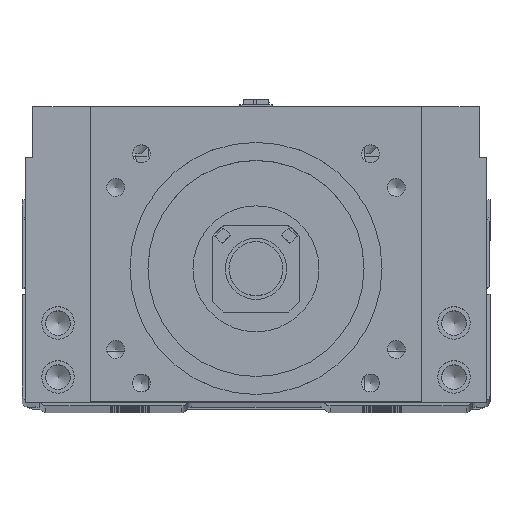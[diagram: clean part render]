
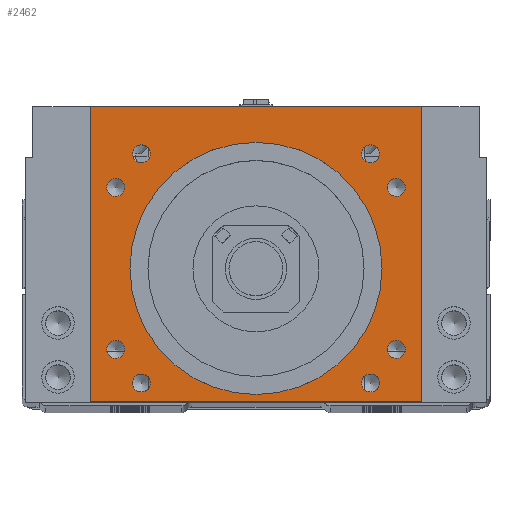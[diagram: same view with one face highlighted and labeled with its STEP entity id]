
A CAD part, top view. The second image highlights one B-rep face of the part: STEP entity #2462.
In plain terms, the highlighted planar face has unit normal (0, 0, 1).
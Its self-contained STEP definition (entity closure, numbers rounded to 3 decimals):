
#2462=ADVANCED_FACE('',(#6563,#6564,#6565,#6566,#6567,#6568,#6569,#6570,
#6571,#6572),#3351,.T.);
#3351=PLANE('',#17319);
#4151=LINE('',#24383,#5433);
#4156=LINE('',#24397,#5438);
#4161=LINE('',#24405,#5443);
#4166=LINE('',#24414,#5448);
#5433=VECTOR('',#19653,1.);
#5438=VECTOR('',#19664,1.);
#5443=VECTOR('',#19675,1.);
#5448=VECTOR('',#19682,1.);
#6563=FACE_BOUND('',#7588,.T.);
#6564=FACE_BOUND('',#7589,.T.);
#6565=FACE_BOUND('',#7590,.T.);
#6566=FACE_BOUND('',#7591,.T.);
#6567=FACE_BOUND('',#7592,.T.);
#6568=FACE_BOUND('',#7593,.T.);
#6569=FACE_BOUND('',#7594,.T.);
#6570=FACE_BOUND('',#7595,.T.);
#6571=FACE_BOUND('',#7596,.T.);
#6572=FACE_BOUND('',#7597,.T.);
#7588=EDGE_LOOP('',(#9810,#9811,#9812,#9813));
#7589=EDGE_LOOP('',(#9814));
#7590=EDGE_LOOP('',(#9815));
#7591=EDGE_LOOP('',(#9816));
#7592=EDGE_LOOP('',(#9817));
#7593=EDGE_LOOP('',(#9818));
#7594=EDGE_LOOP('',(#9819));
#7595=EDGE_LOOP('',(#9820));
#7596=EDGE_LOOP('',(#9821));
#7597=EDGE_LOOP('',(#9822));
#9810=ORIENTED_EDGE('',*,*,#14868,.T.);
#9811=ORIENTED_EDGE('',*,*,#14856,.T.);
#9812=ORIENTED_EDGE('',*,*,#14863,.T.);
#9813=ORIENTED_EDGE('',*,*,#14873,.T.);
#9814=ORIENTED_EDGE('',*,*,#14881,.F.);
#9815=ORIENTED_EDGE('',*,*,#14882,.T.);
#9816=ORIENTED_EDGE('',*,*,#14883,.T.);
#9817=ORIENTED_EDGE('',*,*,#14884,.F.);
#9818=ORIENTED_EDGE('',*,*,#14880,.F.);
#9819=ORIENTED_EDGE('',*,*,#14885,.T.);
#9820=ORIENTED_EDGE('',*,*,#14886,.T.);
#9821=ORIENTED_EDGE('',*,*,#14887,.T.);
#9822=ORIENTED_EDGE('',*,*,#14888,.T.);
#13158=VERTEX_POINT('',#24382);
#13159=VERTEX_POINT('',#24384);
#13163=VERTEX_POINT('',#24395);
#13165=VERTEX_POINT('',#24406);
#13171=VERTEX_POINT('',#24430);
#13172=VERTEX_POINT('',#24433);
#13173=VERTEX_POINT('',#24435);
#13174=VERTEX_POINT('',#24437);
#13175=VERTEX_POINT('',#24439);
#13176=VERTEX_POINT('',#24441);
#13177=VERTEX_POINT('',#24443);
#13178=VERTEX_POINT('',#24445);
#13179=VERTEX_POINT('',#24447);
#14856=EDGE_CURVE('',#13159,#13158,#4151,.T.);
#14863=EDGE_CURVE('',#13158,#13163,#4156,.T.);
#14868=EDGE_CURVE('',#13165,#13159,#4161,.T.);
#14873=EDGE_CURVE('',#13163,#13165,#4166,.T.);
#14880=EDGE_CURVE('',#13171,#13171,#16458,.T.);
#14881=EDGE_CURVE('',#13172,#13172,#16459,.T.);
#14882=EDGE_CURVE('',#13173,#13173,#16460,.T.);
#14883=EDGE_CURVE('',#13174,#13174,#16461,.T.);
#14884=EDGE_CURVE('',#13175,#13175,#16462,.T.);
#14885=EDGE_CURVE('',#13176,#13176,#16463,.T.);
#14886=EDGE_CURVE('',#13177,#13177,#16464,.T.);
#14887=EDGE_CURVE('',#13178,#13178,#16465,.T.);
#14888=EDGE_CURVE('',#13179,#13179,#16466,.T.);
#16458=CIRCLE('',#17309,35.015);
#16459=CIRCLE('',#17311,2.5);
#16460=CIRCLE('',#17312,2.5);
#16461=CIRCLE('',#17313,2.5);
#16462=CIRCLE('',#17314,2.5);
#16463=CIRCLE('',#17315,2.5);
#16464=CIRCLE('',#17316,2.5);
#16465=CIRCLE('',#17317,2.5);
#16466=CIRCLE('',#17318,2.5);
#17309=AXIS2_PLACEMENT_3D('',#24429,#19701,#19702);
#17311=AXIS2_PLACEMENT_3D('',#24432,#19705,#19706);
#17312=AXIS2_PLACEMENT_3D('',#24434,#19707,#19708);
#17313=AXIS2_PLACEMENT_3D('',#24436,#19709,#19710);
#17314=AXIS2_PLACEMENT_3D('',#24438,#19711,#19712);
#17315=AXIS2_PLACEMENT_3D('',#24440,#19713,#19714);
#17316=AXIS2_PLACEMENT_3D('',#24442,#19715,#19716);
#17317=AXIS2_PLACEMENT_3D('',#24444,#19717,#19718);
#17318=AXIS2_PLACEMENT_3D('',#24446,#19719,#19720);
#17319=AXIS2_PLACEMENT_3D('',#24448,#19721,#19722);
#19653=DIRECTION('',(-1.,0.,0.));
#19664=DIRECTION('',(0.,-1.,0.));
#19675=DIRECTION('',(0.,1.,0.));
#19682=DIRECTION('',(1.,0.,0.));
#19701=DIRECTION('',(0.,0.,1.));
#19702=DIRECTION('',(1.,0.,0.));
#19705=DIRECTION('',(0.,0.,1.));
#19706=DIRECTION('',(-1.,0.,0.));
#19707=DIRECTION('',(0.,0.,-1.));
#19708=DIRECTION('',(1.,0.,0.));
#19709=DIRECTION('',(0.,0.,-1.));
#19710=DIRECTION('',(1.,0.,0.));
#19711=DIRECTION('',(0.,0.,1.));
#19712=DIRECTION('',(-1.,0.,0.));
#19713=DIRECTION('',(0.,0.,-1.));
#19714=DIRECTION('',(1.,0.,0.));
#19715=DIRECTION('',(0.,0.,-1.));
#19716=DIRECTION('',(1.,0.,0.));
#19717=DIRECTION('',(0.,0.,-1.));
#19718=DIRECTION('',(1.,0.,0.));
#19719=DIRECTION('',(0.,0.,-1.));
#19720=DIRECTION('',(1.,0.,0.));
#19721=DIRECTION('',(0.,0.,1.));
#19722=DIRECTION('',(1.,0.,0.));
#24382=CARTESIAN_POINT('',(-46.,83.,100.));
#24383=CARTESIAN_POINT('',(0.,83.,100.));
#24384=CARTESIAN_POINT('',(46.,83.,100.));
#24395=CARTESIAN_POINT('',(-46.,1.,100.));
#24397=CARTESIAN_POINT('',(-46.,38.,100.));
#24405=CARTESIAN_POINT('',(46.,38.,100.));
#24406=CARTESIAN_POINT('',(46.,1.,100.));
#24414=CARTESIAN_POINT('',(0.,1.,100.));
#24429=CARTESIAN_POINT('',(0.,38.,100.));
#24430=CARTESIAN_POINT('',(35.015,38.,100.));
#24432=CARTESIAN_POINT('',(-38.971,15.5,100.));
#24433=CARTESIAN_POINT('',(-41.471,15.5,100.));
#24434=CARTESIAN_POINT('',(38.971,60.5,100.));
#24435=CARTESIAN_POINT('',(41.471,60.5,100.));
#24436=CARTESIAN_POINT('',(38.971,15.5,100.));
#24437=CARTESIAN_POINT('',(41.471,15.5,100.));
#24438=CARTESIAN_POINT('',(-38.971,60.5,100.));
#24439=CARTESIAN_POINT('',(-41.471,60.5,100.));
#24440=CARTESIAN_POINT('',(-31.82,69.82,100.));
#24441=CARTESIAN_POINT('',(-29.32,69.82,100.));
#24442=CARTESIAN_POINT('',(-31.82,6.18,100.));
#24443=CARTESIAN_POINT('',(-29.32,6.18,100.));
#24444=CARTESIAN_POINT('',(31.82,6.18,100.));
#24445=CARTESIAN_POINT('',(34.32,6.18,100.));
#24446=CARTESIAN_POINT('',(31.82,69.82,100.));
#24447=CARTESIAN_POINT('',(34.32,69.82,100.));
#24448=CARTESIAN_POINT('',(0.,38.,100.));
